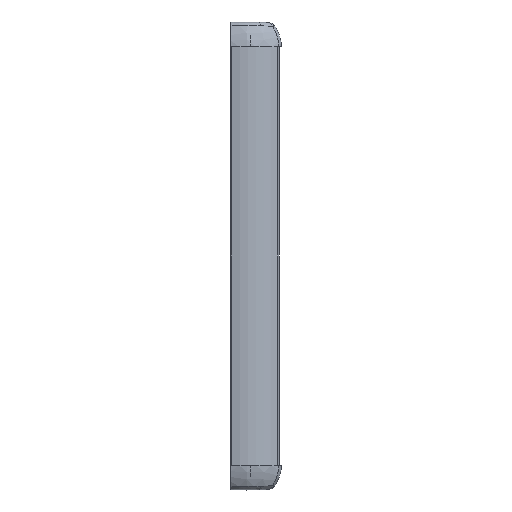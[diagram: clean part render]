
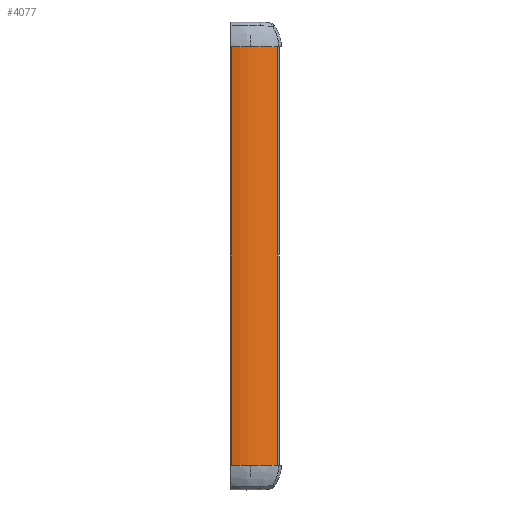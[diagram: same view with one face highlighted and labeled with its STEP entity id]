
A CAD part, front view. The second image highlights one B-rep face of the part: STEP entity #4077.
In plain terms, the highlighted cylindrical face has radius 38.4 mm (diameter 76.8 mm), a partial arc.
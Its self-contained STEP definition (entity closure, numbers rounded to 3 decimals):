
#244 = DIRECTION ( 'NONE',  ( 0., 0., 1. ) ) ;
#271 = CARTESIAN_POINT ( 'NONE',  ( 9.675, 35.967, 160. ) ) ;
#451 = DIRECTION ( 'NONE',  ( -1., 0., 0. ) ) ;
#643 = CARTESIAN_POINT ( 'NONE',  ( 9.675, 35.967, -160. ) ) ;
#1002 = AXIS2_PLACEMENT_3D ( 'NONE', #271, #244, #8532 ) ;
#1204 = ORIENTED_EDGE ( 'NONE', *, *, #5932, .F. ) ;
#1213 = VERTEX_POINT ( 'NONE', #8672 ) ;
#2378 = FACE_OUTER_BOUND ( 'NONE', #5447, .T. ) ;
#2947 = CIRCLE ( 'NONE', #1002, 38.4 ) ;
#3047 = VECTOR ( 'NONE', #5977, 1000. ) ;
#3119 = LINE ( 'NONE', #5963, #3047 ) ;
#3384 = EDGE_CURVE ( 'NONE', #6160, #7717, #3119, .T. ) ;
#3831 = ORIENTED_EDGE ( 'NONE', *, *, #3384, .T. ) ;
#3915 = ORIENTED_EDGE ( 'NONE', *, *, #6711, .F. ) ;
#4077 = ADVANCED_FACE ( 'NONE', ( #2378 ), #8673, .T. ) ;
#4731 = VECTOR ( 'NONE', #7874, 1000. ) ;
#4854 = EDGE_CURVE ( 'NONE', #1213, #6160, #6384, .T. ) ;
#4940 = AXIS2_PLACEMENT_3D ( 'NONE', #5794, #5267, #451 ) ;
#4961 = CARTESIAN_POINT ( 'NONE',  ( 0.683, -1.366, -160. ) ) ;
#5021 = LINE ( 'NONE', #4961, #4731 ) ;
#5267 = DIRECTION ( 'NONE',  ( 0., 0., 1. ) ) ;
#5447 = EDGE_LOOP ( 'NONE', ( #1204, #3915, #6406, #3831 ) ) ;
#5794 = CARTESIAN_POINT ( 'NONE',  ( 9.675, 35.967, -160. ) ) ;
#5903 = DIRECTION ( 'NONE',  ( 1., 0., 0. ) ) ;
#5932 = EDGE_CURVE ( 'NONE', #7839, #7717, #2947, .T. ) ;
#5963 = CARTESIAN_POINT ( 'NONE',  ( 35.172, 7.253, -160. ) ) ;
#5977 = DIRECTION ( 'NONE',  ( 0., 0., 1. ) ) ;
#6160 = VERTEX_POINT ( 'NONE', #8726 ) ;
#6384 = CIRCLE ( 'NONE', #4940, 38.4 ) ;
#6406 = ORIENTED_EDGE ( 'NONE', *, *, #4854, .T. ) ;
#6711 = EDGE_CURVE ( 'NONE', #1213, #7839, #5021, .T. ) ;
#7164 = CARTESIAN_POINT ( 'NONE',  ( 35.172, 7.253, 160. ) ) ;
#7259 = DIRECTION ( 'NONE',  ( 0., 0., 1. ) ) ;
#7717 = VERTEX_POINT ( 'NONE', #7164 ) ;
#7839 = VERTEX_POINT ( 'NONE', #7898 ) ;
#7874 = DIRECTION ( 'NONE',  ( 0., 0., 1. ) ) ;
#7894 = AXIS2_PLACEMENT_3D ( 'NONE', #643, #7259, #5903 ) ;
#7898 = CARTESIAN_POINT ( 'NONE',  ( 0.683, -1.366, 160. ) ) ;
#8532 = DIRECTION ( 'NONE',  ( -1., 0., 0. ) ) ;
#8672 = CARTESIAN_POINT ( 'NONE',  ( 0.683, -1.366, -160. ) ) ;
#8673 = CYLINDRICAL_SURFACE ( 'NONE', #7894, 38.4 ) ;
#8726 = CARTESIAN_POINT ( 'NONE',  ( 35.172, 7.253, -160. ) ) ;
